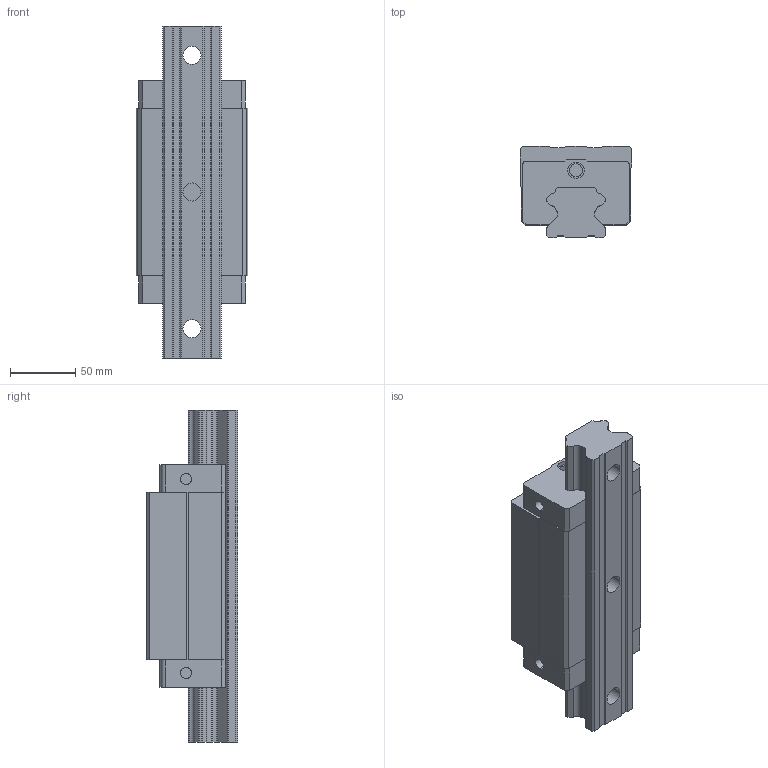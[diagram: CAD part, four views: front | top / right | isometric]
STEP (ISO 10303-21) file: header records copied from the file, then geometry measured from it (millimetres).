
FILE_DESCRIPTION((''),'2;1');
FILE_NAME('HGH45HA_ASM','2008-07-11T',('immo'),(''),'PRO/ENGINEER BY PARAMETRIC TECHNOLOGY CORPORATION, 2004360','PRO/ENGINEER BY PARAMETRIC TECHNOLOGY CORPORATION, 2004360','');
FILE_SCHEMA(('CONFIG_CONTROL_DESIGN'));
Length unit declared in the file: millimetre
Products named in the file (5): PRT0004; PRT0005; HGH45_ASM_2_ASM; HG45_EC; HGH45HA_ASM
Assembly tree (5 placements, depth 3):
  HGH45HA_ASM
    HGH45_ASM_2_ASM
      PRT0004
      PRT0005
    HG45_EC  x2
Bounding box: 86 x 70 x 255 mm (x, y, z)
Volume: 979111.7 mm3; surface area: 135257.6 mm2
Topology: 4 solids, 4 shells, 239 faces, 642 edges, 428 vertices
Faces by surface type: plane 141, cylinder 98
Entity records: 5847 total; most frequent: DIRECTION 1014, CARTESIAN_POINT 1002, ORIENTED_EDGE 972, EDGE_CURVE 486, VECTOR 342, LINE 342, AXIS2_PLACEMENT_3D 336, VERTEX_POINT 324
